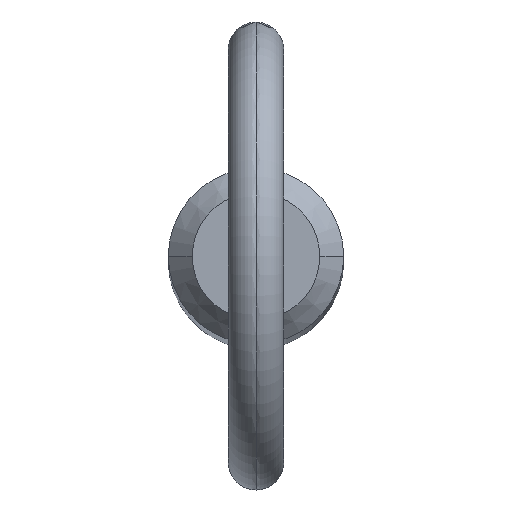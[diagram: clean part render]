
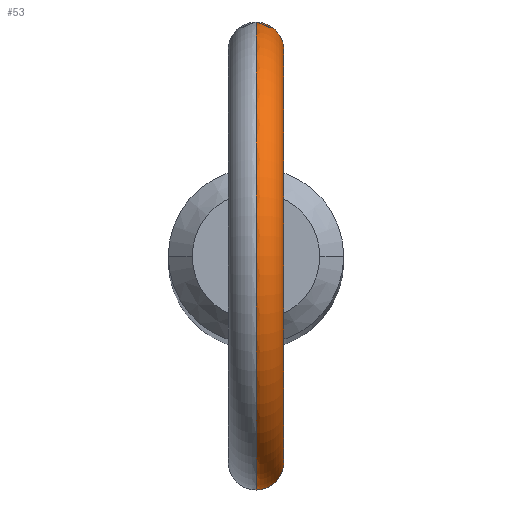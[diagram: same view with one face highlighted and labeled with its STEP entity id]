
A CAD part, top view. The second image highlights one B-rep face of the part: STEP entity #53.
In plain terms, the highlighted toroidal (fillet/blend) face has major radius 11.2 mm and minor radius 1.5 mm.
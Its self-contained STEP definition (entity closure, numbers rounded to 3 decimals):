
#6 = CARTESIAN_POINT ( 'NONE',  ( 0., 4.76, 151.548 ) ) ;
#18 = CARTESIAN_POINT ( 'NONE',  ( 0.506, -4.734, 151.437 ) ) ;
#23 = CARTESIAN_POINT ( 'NONE',  ( 0.208, -4.757, 148.236 ) ) ;
#24 = FACE_OUTER_BOUND ( 'NONE', #381, .T. ) ;
#27 = CARTESIAN_POINT ( 'NONE',  ( 0., 4.76, 148.226 ) ) ;
#39 = CARTESIAN_POINT ( 'NONE',  ( 0.795, 4.697, 148.428 ) ) ;
#43 = CARTESIAN_POINT ( 'NONE',  ( 0., -4.76, 151.548 ) ) ;
#53 = ADVANCED_FACE ( 'NONE', ( #24 ), #309, .T. ) ;
#63 = VERTEX_POINT ( 'NONE', #299 ) ;
#67 = CARTESIAN_POINT ( 'NONE',  ( 0.409, -4.743, 151.478 ) ) ;
#69 = CARTESIAN_POINT ( 'NONE',  ( 0.77, -4.698, 151.275 ) ) ;
#70 = DIRECTION ( 'NONE',  ( 0., 0., -1. ) ) ;
#73 = CARTESIAN_POINT ( 'NONE',  ( 1.385, -4.554, 149.132 ) ) ;
#75 = CARTESIAN_POINT ( 'NONE',  ( 1.499, -4.518, 149.637 ) ) ;
#76 = CARTESIAN_POINT ( 'NONE',  ( 1.473, -4.526, 149.431 ) ) ;
#85 = CARTESIAN_POINT ( 'NONE',  ( 0.968, 4.663, 148.549 ) ) ;
#88 = CARTESIAN_POINT ( 'NONE',  ( 1.487, 4.522, 150.053 ) ) ;
#90 = CARTESIAN_POINT ( 'NONE',  ( 0.208, 4.76, 151.548 ) ) ;
#92 = CARTESIAN_POINT ( 'NONE',  ( 0.207, 4.757, 148.236 ) ) ;
#102 = CARTESIAN_POINT ( 'NONE',  ( 0., 0., 160. ) ) ;
#110 = EDGE_CURVE ( 'NONE', #63, #452, #343, .T. ) ;
#116 = CARTESIAN_POINT ( 'NONE',  ( 0.925, -4.67, 151.139 ) ) ;
#124 = CARTESIAN_POINT ( 'NONE',  ( 1.434, -4.539, 150.254 ) ) ;
#128 = CARTESIAN_POINT ( 'NONE',  ( 0.415, 4.745, 151.488 ) ) ;
#129 = CARTESIAN_POINT ( 'NONE',  ( 1.239, 4.596, 148.859 ) ) ;
#130 = CARTESIAN_POINT ( 'NONE',  ( 1.177, 4.613, 148.775 ) ) ;
#138 = VERTEX_POINT ( 'NONE', #6 ) ;
#139 = DIRECTION ( 'NONE',  ( 1., 0., 0. ) ) ;
#151 = DIRECTION ( 'NONE',  ( 0., 0., -1. ) ) ;
#163 = CARTESIAN_POINT ( 'NONE',  ( 1.503, -4.517, 149.74 ) ) ;
#170 = CARTESIAN_POINT ( 'NONE',  ( 0.771, 4.698, 151.275 ) ) ;
#182 = B_SPLINE_CURVE_WITH_KNOTS ( 'NONE', 3,
 ( #27, #196, #92, #403, #318, #39, #85, #130, #129, #234, #239, #245, #399, #88, #200, #521, #513, #285, #323, #170, #358, #128, #90, #440 ),
 .UNSPECIFIED., .F., .F.,
 ( 4, 2, 2, 2, 2, 2, 2, 2, 2, 2, 2, 4 ),
 ( 0.001, 0.001, 0.001, 0.002, 0.002, 0.002, 0.003, 0.004, 0.004, 0.005, 0.005, 0.006 ),
 .UNSPECIFIED. ) ;
#186 = ORIENTED_EDGE ( 'NONE', *, *, #110, .T. ) ;
#188 = CARTESIAN_POINT ( 'NONE',  ( 0., 0., 160. ) ) ;
#196 = CARTESIAN_POINT ( 'NONE',  ( 0.104, 4.76, 148.226 ) ) ;
#197 = CARTESIAN_POINT ( 'NONE',  ( 0.97, -4.662, 148.55 ) ) ;
#200 = CARTESIAN_POINT ( 'NONE',  ( 1.441, 4.537, 150.259 ) ) ;
#205 = CARTESIAN_POINT ( 'NONE',  ( 0., 0., 160. ) ) ;
#207 = EDGE_CURVE ( 'NONE', #468, #452, #478, .T. ) ;
#209 = DIRECTION ( 'NONE',  ( 0., 0., -1. ) ) ;
#225 = CARTESIAN_POINT ( 'NONE',  ( 1.19, -4.611, 150.824 ) ) ;
#227 = CARTESIAN_POINT ( 'NONE',  ( 1.492, -4.52, 149.948 ) ) ;
#230 = CARTESIAN_POINT ( 'NONE',  ( 1.178, -4.613, 148.776 ) ) ;
#234 = CARTESIAN_POINT ( 'NONE',  ( 1.343, 4.567, 149.037 ) ) ;
#239 = CARTESIAN_POINT ( 'NONE',  ( 1.385, 4.554, 149.13 ) ) ;
#245 = CARTESIAN_POINT ( 'NONE',  ( 1.484, 4.523, 149.428 ) ) ;
#259 = DIRECTION ( 'NONE',  ( 1., 0., 0. ) ) ;
#265 = CARTESIAN_POINT ( 'NONE',  ( 0.104, -4.76, 151.548 ) ) ;
#267 = CARTESIAN_POINT ( 'NONE',  ( 1.293, -4.582, 150.642 ) ) ;
#271 = CARTESIAN_POINT ( 'NONE',  ( 0.411, -4.743, 148.277 ) ) ;
#273 = CARTESIAN_POINT ( 'NONE',  ( 0., -4.76, 148.226 ) ) ;
#274 = CARTESIAN_POINT ( 'NONE',  ( 1.45, -4.534, 149.328 ) ) ;
#280 = EDGE_CURVE ( 'NONE', #63, #138, #182, .T. ) ;
#283 = ORIENTED_EDGE ( 'NONE', *, *, #207, .F. ) ;
#285 = CARTESIAN_POINT ( 'NONE',  ( 0.996, 4.655, 151.066 ) ) ;
#288 = AXIS2_PLACEMENT_3D ( 'NONE', #188, #259, #70 ) ;
#299 = CARTESIAN_POINT ( 'NONE',  ( 0., 4.76, 148.226 ) ) ;
#306 = CARTESIAN_POINT ( 'NONE',  ( 0.209, -4.756, 151.534 ) ) ;
#307 = CARTESIAN_POINT ( 'NONE',  ( 0.687, -4.711, 151.335 ) ) ;
#309 = TOROIDAL_SURFACE ( 'NONE', #367, 11.2, 1.5 ) ;
#312 = CARTESIAN_POINT ( 'NONE',  ( 1.478, -4.525, 150.052 ) ) ;
#317 = CARTESIAN_POINT ( 'NONE',  ( 1.404, -4.548, 150.353 ) ) ;
#318 = CARTESIAN_POINT ( 'NONE',  ( 0.511, 4.733, 148.308 ) ) ;
#323 = CARTESIAN_POINT ( 'NONE',  ( 0.925, 4.67, 151.14 ) ) ;
#343 = CIRCLE ( 'NONE', #288, 12.7 ) ;
#351 = CARTESIAN_POINT ( 'NONE',  ( 1.344, -4.567, 149.039 ) ) ;
#358 = CARTESIAN_POINT ( 'NONE',  ( 0.685, 4.711, 151.336 ) ) ;
#367 = AXIS2_PLACEMENT_3D ( 'NONE', #205, #139, #209 ) ;
#374 = DIRECTION ( 'NONE',  ( 1., 0., 0. ) ) ;
#381 = EDGE_LOOP ( 'NONE', ( #456, #186, #283, #494 ) ) ;
#399 = CARTESIAN_POINT ( 'NONE',  ( 1.508, 4.515, 149.637 ) ) ;
#403 = CARTESIAN_POINT ( 'NONE',  ( 0.411, 4.743, 148.277 ) ) ;
#417 = AXIS2_PLACEMENT_3D ( 'NONE', #102, #374, #151 ) ;
#440 = CARTESIAN_POINT ( 'NONE',  ( 0., 4.76, 151.548 ) ) ;
#451 = CIRCLE ( 'NONE', #417, 9.7 ) ;
#452 = VERTEX_POINT ( 'NONE', #516 ) ;
#456 = ORIENTED_EDGE ( 'NONE', *, *, #280, .F. ) ;
#463 = CARTESIAN_POINT ( 'NONE',  ( 1.24, -4.596, 148.86 ) ) ;
#465 = CARTESIAN_POINT ( 'NONE',  ( 0.105, -4.76, 148.226 ) ) ;
#468 = VERTEX_POINT ( 'NONE', #43 ) ;
#478 = B_SPLINE_CURVE_WITH_KNOTS ( 'NONE', 3,
 ( #499, #265, #306, #67, #18, #307, #69, #116, #506, #225, #267, #317, #124, #312, #227, #163, #75, #76, #274, #73, #351, #463, #230, #197, #507, #512, #271, #23, #465, #273 ),
 .UNSPECIFIED., .F., .F.,
 ( 4, 2, 2, 2, 2, 2, 2, 2, 2, 2, 2, 2, 2, 2, 4 ),
 ( 0.004, 0.005, 0.005, 0.005, 0.006, 0.006, 0.007, 0.007, 0.007, 0.007, 0.008, 0.008, 0.009, 0.009, 0.009 ),
 .UNSPECIFIED. ) ;
#494 = ORIENTED_EDGE ( 'NONE', *, *, #501, .F. ) ;
#499 = CARTESIAN_POINT ( 'NONE',  ( 0., -4.76, 151.548 ) ) ;
#501 = EDGE_CURVE ( 'NONE', #138, #468, #451, .T. ) ;
#506 = CARTESIAN_POINT ( 'NONE',  ( 0.997, -4.655, 151.064 ) ) ;
#507 = CARTESIAN_POINT ( 'NONE',  ( 0.797, -4.697, 148.429 ) ) ;
#512 = CARTESIAN_POINT ( 'NONE',  ( 0.512, -4.733, 148.308 ) ) ;
#513 = CARTESIAN_POINT ( 'NONE',  ( 1.188, 4.611, 150.827 ) ) ;
#516 = CARTESIAN_POINT ( 'NONE',  ( 0., -4.76, 148.226 ) ) ;
#521 = CARTESIAN_POINT ( 'NONE',  ( 1.292, 4.582, 150.644 ) ) ;
